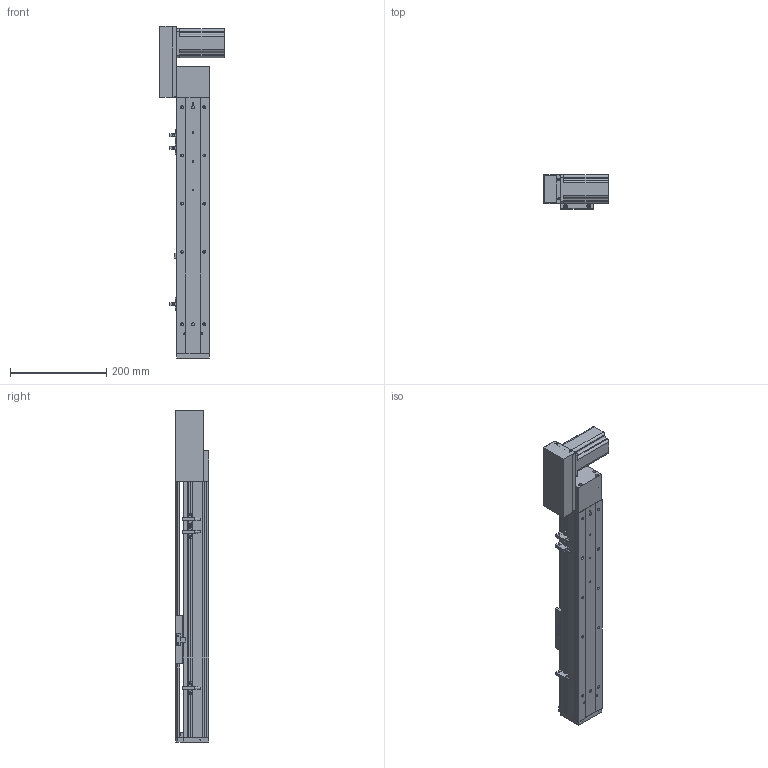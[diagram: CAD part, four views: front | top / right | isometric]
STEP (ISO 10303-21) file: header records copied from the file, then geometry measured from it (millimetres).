
FILE_DESCRIPTION (( 'STEP AP203' ), '1' );
FILE_NAME ('ML68-S350-CR.STEP', '2016-08-04T12:40:36', ( '' ), ( '' ), 'SwSTEP 2.0', 'SolidWorks 2014', '' );
FILE_SCHEMA (( 'CONFIG_CONTROL_DESIGN' ));
Length unit declared in the file: millimetre
Products named in the file (12): ML68滅鳥啣盓傅輸; ML68傷啣; 葩璃 ML68菁釱^ML68-S350-CR; 三协电机MH201N2_預設; ML68-BL傷啣; ML68雄赽釱; 換覜ん; 60換覜結え; ML68-S350-CR; QS68左右折电机板罩子; QS68酘衵殏萇儂啣; ML68奻裔^ML68-S350-CR
Assembly tree (13 placements, depth 2):
  ML68-S350-CR
    葩璃 ML68菁釱^ML68-S350-CR
    ML68奻裔^ML68-S350-CR
    ML68傷啣
    ML68-BL傷啣
    60換覜結え
    換覜ん  x3
    三协电机MH201N2_預設
    ML68雄赽釱
    QS68酘衵殏萇儂啣
    QS68左右折电机板罩子
    ML68滅鳥啣盓傅輸
Bounding box: 133.5 x 70.5 x 688.5 mm (x, y, z)
Volume: 1375379.8 mm3; surface area: 480911.5 mm2
Topology: 13 solids, 13 shells, 869 faces, 2376 edges, 1505 vertices
Faces by surface type: cylinder 392, plane 381, cone 96
Entity records: 27324 total; most frequent: CARTESIAN_POINT 5090, DIRECTION 4494, ORIENTED_EDGE 4252, EDGE_CURVE 2126, AXIS2_PLACEMENT_3D 1617, VERTEX_POINT 1393, LINE 1260, VECTOR 1260
